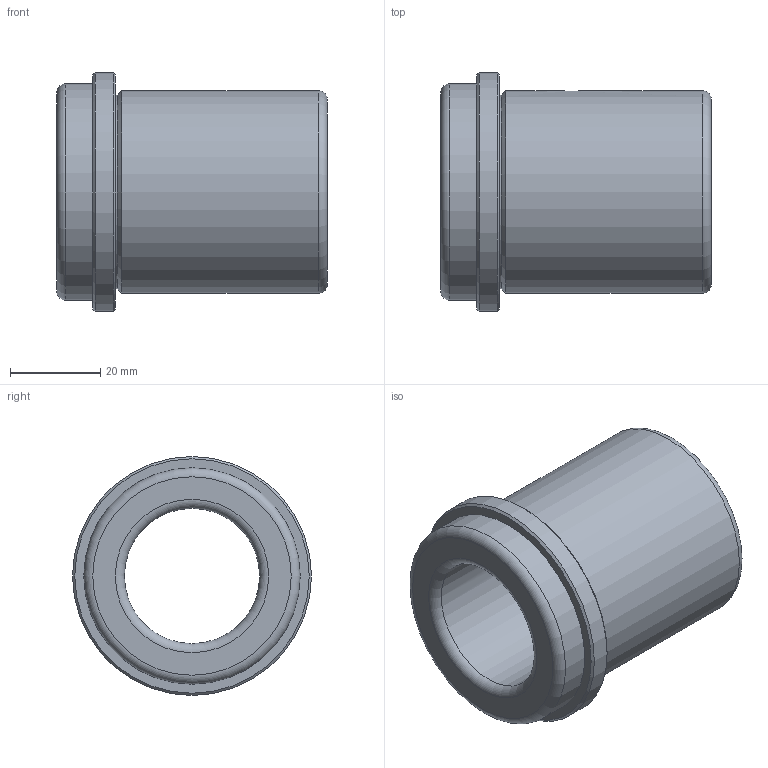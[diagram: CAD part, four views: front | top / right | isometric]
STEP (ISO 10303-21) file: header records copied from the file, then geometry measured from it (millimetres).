
FILE_DESCRIPTION( ( 'STEP AP214' ), '1' );
FILE_NAME( 'p:/temp/worker_1047/temp/exporttempdir_5452_368_IXj1T/format_1/WZ - 4032 30 x 60.stp', '2020-12-03T19:42:08', ( 'License CC BY-ND 4.0' ), ( 'CADENAS' ), ' ', 'PARTsolutions', ' ' );
FILE_SCHEMA( ( 'AUTOMOTIVE_DESIGN { 1 0 10303 214 1 1 1 1 }' ) );
Length unit declared in the file: millimetre
Products named in the file (1): _WZ - 4032 30 x 60
Bounding box: 60 x 53 x 53 mm (x, y, z)
Volume: 56847.6 mm3; surface area: 17290.8 mm2
Topology: 1 solids, 1 shells, 19 faces, 34 edges, 20 vertices
Faces by surface type: cylinder 6, plane 5, torus 4, cone 4
Full cylindrical faces by diameter (mm): 5 x1, 30 x1, 43 x1, 45 x1, 48 x1, 53 x1
Entity records: 686 total; most frequent: CARTESIAN_POINT 182, DIRECTION 76, EDGE_LOOP 40, ORIENTED_EDGE 40, AXIS2_PLACEMENT_3D 38, FACE_OUTER_BOUND 29, EDGE_CURVE 20, VERTEX_POINT 20
